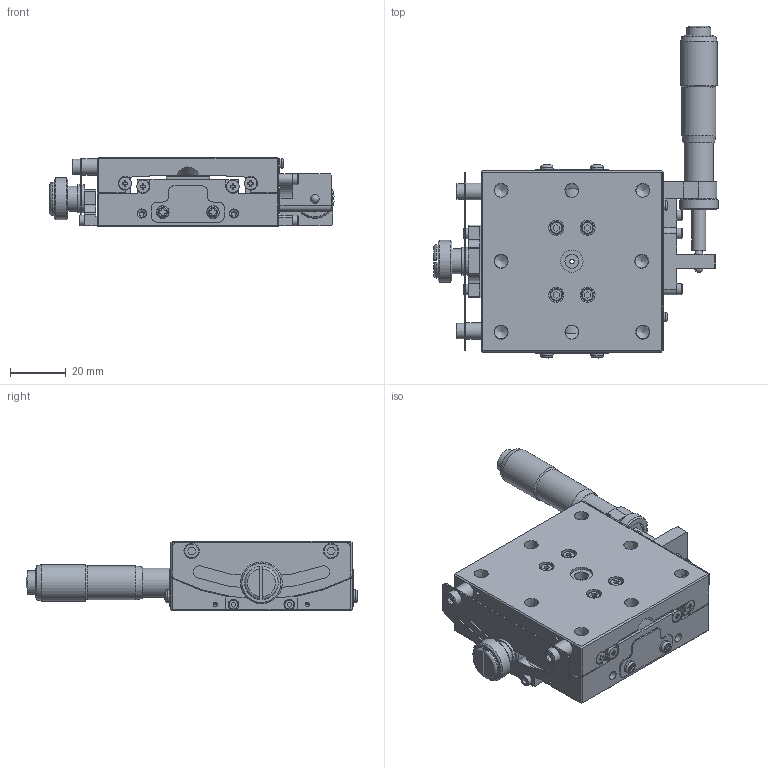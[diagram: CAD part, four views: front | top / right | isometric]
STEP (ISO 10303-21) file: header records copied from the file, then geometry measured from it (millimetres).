
FILE_DESCRIPTION((''),'2;1');
FILE_NAME('Y:\3DDATA\2_OpticalHard\02_海外製品\1_Stags\GOHT\□65ﾏｲｸﾛ式\GOHT-65A50BSUU\GOHT-65A50BSUU.stp','2014-04-09T17:30:24',('usernoto011'),(''),'Autodesk Inventor 2008','Autodesk Inventor 2008','');
FILE_SCHEMA(('AUTOMOTIVE_DESIGN { 1 0 10303 214 1 1 1 1 }'));
Length unit declared in the file: millimetre
Products named in the file (3): GOHT65A50BSUU-M02-08001-S11; GOHT65A50BSUU-M02-08001-S10; GOHT65A50BSUU-M02-08001-S09
Assembly tree (2 placements, depth 2):
  GOHT65A50BSUU-M02-08001-S11
    GOHT65A50BSUU-M02-08001-S10
    GOHT65A50BSUU-M02-08001-S09
Bounding box: 101.93 x 119 x 25 mm (x, y, z)
Volume: 89420.4 mm3; surface area: 47145.7 mm2
Topology: 4 solids, 46 shells, 1079 faces, 2704 edges, 1768 vertices
Faces by surface type: plane 588, bspline 210, cylinder 183, cone 67, sphere 19, torus 12
Full cylindrical faces by diameter (mm): 1.5 x8, 1.6 x1, 2 x8, 2.5 x8, 3 x3, 3.1 x2, 3.8 x6, 4 x2, 4.5 x12, 4.6 x1, 5 x2, 5.2 x1, 5.5 x2, 6 x3, 7 x4, 7.3 x2, 7.5 x1, 8 x3, 8.5 x2, 9 x1, 9.3 x1, 9.9 x1, 10 x2, 10.5 x1, 12 x4, 12.1 x1, 13.1 x1, 15 x1
Entity records: 34604 total; most frequent: CARTESIAN_POINT 11569, DIRECTION 4585, ORIENTED_EDGE 4350, EDGE_CURVE 2175, AXIS2_PLACEMENT_3D 1711, EDGE_LOOP 1586, VERTEX_POINT 1573, VECTOR 1163
